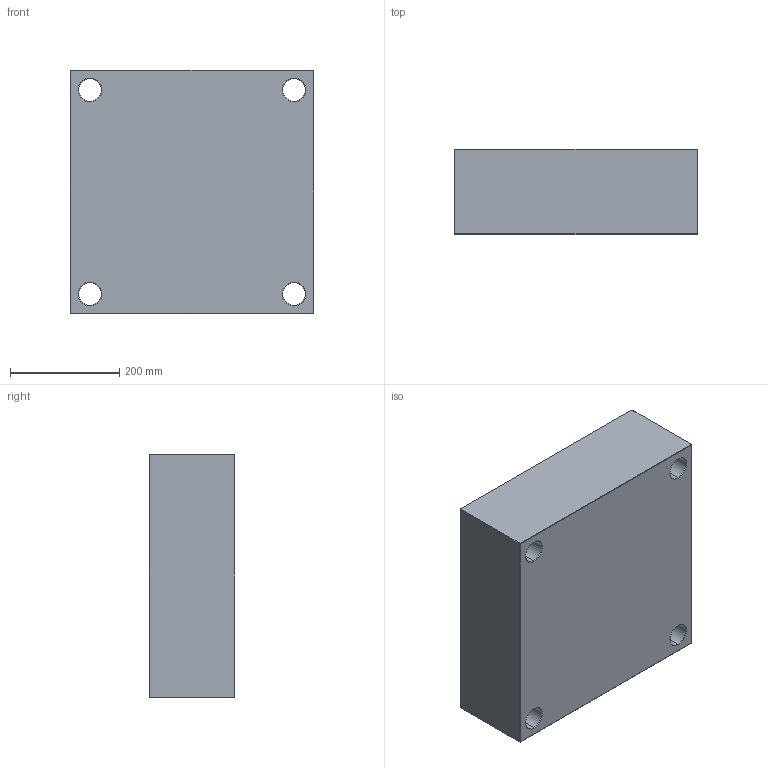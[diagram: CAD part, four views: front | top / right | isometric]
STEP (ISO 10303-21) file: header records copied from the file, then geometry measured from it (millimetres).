
FILE_DESCRIPTION (( 'STEP AP214' ), '1' );
FILE_NAME ('PCX-446x446x156.STEP', '2020-05-04T10:08:58', ( 'August' ), ( '' ), 'SwSTEP 2.0', 'SolidWorks 2018', '' );
FILE_SCHEMA (( 'AUTOMOTIVE_DESIGN' ));
Length unit declared in the file: millimetre
Products named in the file (1): PCX-446x446x156
Bounding box: 446 x 156 x 446 mm (x, y, z)
Volume: 30160244.2 mm3; surface area: 748720.3 mm2
Topology: 1 solids, 1 shells, 82 faces, 168 edges, 96 vertices
Faces by surface type: plane 34, cone 24, cylinder 24
Entity records: 2170 total; most frequent: DIRECTION 406, CARTESIAN_POINT 347, ORIENTED_EDGE 336, EDGE_CURVE 168, AXIS2_PLACEMENT_3D 155, EDGE_LOOP 98, VECTOR 96, LINE 96
